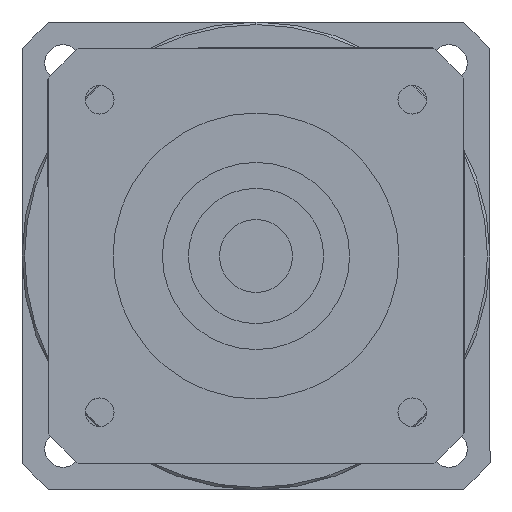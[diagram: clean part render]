
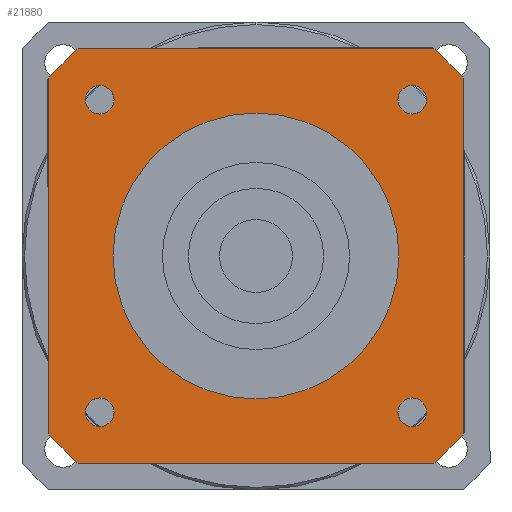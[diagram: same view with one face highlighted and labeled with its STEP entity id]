
A CAD part, left-side view. The second image highlights one B-rep face of the part: STEP entity #21880.
In plain terms, the highlighted planar face has unit normal (-1, 0, 0) as drawn and (0, 0, -1) by its records, which use the part's own axes.
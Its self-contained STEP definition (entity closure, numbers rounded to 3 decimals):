
#16160=CARTESIAN_POINT('',(-40.,34.004,-117.));
#16170=VERTEX_POINT('',#16160);
#16420=CARTESIAN_POINT('',(-40.,-34.004,-117.));
#16430=VERTEX_POINT('',#16420);
#16460=CARTESIAN_POINT('',(-40.,40.,-117.));
#16470=DIRECTION('',(0.,-1.,0.));
#16480=VECTOR('',#16470,1000.);
#16490=LINE('',#16460,#16480);
#16500=EDGE_CURVE('',#16170,#16430,#16490,.T.);
#16660=CARTESIAN_POINT('',(34.004,40.,-117.));
#16670=VERTEX_POINT('',#16660);
#16700=CARTESIAN_POINT('',(0.,0.,
-117.));
#16710=DIRECTION('',(0.,0.,1.));
#16720=DIRECTION('',(0.,-1.,0.));
#16730=AXIS2_PLACEMENT_3D('',#16700,#16710,#16720);
#16740=CIRCLE('',#16730,52.5);
#16750=CARTESIAN_POINT('',(40.,34.004,-117.));
#16760=VERTEX_POINT('',#16750);
#16770=EDGE_CURVE('',#16760,#16670,#16740,.T.);
#19160=CARTESIAN_POINT('',(-34.004,-40.,-117.));
#19170=VERTEX_POINT('',#19160);
#19200=CARTESIAN_POINT('',(0.,0.,
-117.));
#19210=DIRECTION('',(0.,0.,1.));
#19220=DIRECTION('',(0.,-1.,0.));
#19230=AXIS2_PLACEMENT_3D('',#19200,#19210,#19220);
#19240=CIRCLE('',#19230,52.5);
#19250=EDGE_CURVE('',#16430,#19170,#19240,.T.);
#19700=CARTESIAN_POINT('',(34.004,-40.,-117.));
#19710=VERTEX_POINT('',#19700);
#19790=CARTESIAN_POINT('',(40.,-34.004,-117.));
#19800=VERTEX_POINT('',#19790);
#19830=CARTESIAN_POINT('',(0.,0.,
-117.));
#19840=DIRECTION('',(0.,0.,1.));
#19850=DIRECTION('',(0.,-1.,0.));
#19860=AXIS2_PLACEMENT_3D('',#19830,#19840,#19850);
#19870=CIRCLE('',#19860,52.5);
#19880=EDGE_CURVE('',#19710,#19800,#19870,.T.);
#20140=CARTESIAN_POINT('',(-34.004,40.,-117.));
#20150=VERTEX_POINT('',#20140);
#20180=CARTESIAN_POINT('',(40.,40.,-117.));
#20190=DIRECTION('',(-1.,0.,0.));
#20200=VECTOR('',#20190,1000.);
#20210=LINE('',#20180,#20200);
#20220=EDGE_CURVE('',#16670,#20150,#20210,.T.);
#20580=CARTESIAN_POINT('',(0.,0.,
-117.));
#20590=DIRECTION('',(0.,0.,1.));
#20600=DIRECTION('',(0.,-1.,0.));
#20610=AXIS2_PLACEMENT_3D('',#20580,#20590,#20600);
#20620=CIRCLE('',#20610,52.5);
#20630=EDGE_CURVE('',#20150,#16170,#20620,.T.);
#20680=CARTESIAN_POINT('',(-40.,40.,-117.));
#20690=DIRECTION('',(0.,0.,1.));
#20700=DIRECTION('',(-1.,0.,0.));
#20710=AXIS2_PLACEMENT_3D('',#20680,#20690,#20700);
#20720=PLANE('',#20710);
#20730=CARTESIAN_POINT('',(30.052,-30.052,-117.));
#20740=DIRECTION('',(0.,0.,-1.));
#20750=DIRECTION('',(1.,0.,0.));
#20760=AXIS2_PLACEMENT_3D('',#20730,#20740,#20750);
#20770=CIRCLE('',#20760,2.75);
#20780=CARTESIAN_POINT('',(32.802,-30.052,-117.));
#20790=VERTEX_POINT('',#20780);
#20800=CARTESIAN_POINT('',(30.052,-32.802,-117.));
#20810=VERTEX_POINT('',#20800);
#20820=EDGE_CURVE('',#20790,#20810,#20770,.T.);
#20830=ORIENTED_EDGE('',*,*,#20820,.F.);
#20840=CARTESIAN_POINT('',(30.052,-27.302,-117.));
#20850=VERTEX_POINT('',#20840);
#20860=EDGE_CURVE('',#20810,#20850,#20770,.T.);
#20870=ORIENTED_EDGE('',*,*,#20860,.F.);
#20880=EDGE_CURVE('',#20850,#20790,#20770,.T.);
#20890=ORIENTED_EDGE('',*,*,#20880,.F.);
#20900=EDGE_LOOP('',(#20890,#20870,#20830));
#20910=FACE_BOUND('',#20900,.T.);
#20920=CARTESIAN_POINT('',(30.052,30.052,-117.));
#20930=DIRECTION('',(0.,0.,-1.));
#20940=DIRECTION('',(0.,1.,0.));
#20950=AXIS2_PLACEMENT_3D('',#20920,#20930,#20940);
#20960=CIRCLE('',#20950,2.75);
#20970=CARTESIAN_POINT('',(30.052,32.802,-117.));
#20980=VERTEX_POINT('',#20970);
#20990=CARTESIAN_POINT('',(32.802,30.052,-117.));
#21000=VERTEX_POINT('',#20990);
#21010=EDGE_CURVE('',#20980,#21000,#20960,.T.);
#21020=ORIENTED_EDGE('',*,*,#21010,.F.);
#21030=CARTESIAN_POINT('',(27.302,30.052,-117.));
#21040=VERTEX_POINT('',#21030);
#21050=EDGE_CURVE('',#21000,#21040,#20960,.T.);
#21060=ORIENTED_EDGE('',*,*,#21050,.F.);
#21070=EDGE_CURVE('',#21040,#20980,#20960,.T.);
#21080=ORIENTED_EDGE('',*,*,#21070,.F.);
#21090=EDGE_LOOP('',(#21080,#21060,#21020));
#21100=FACE_BOUND('',#21090,.T.);
#21110=CARTESIAN_POINT('',(-30.052,30.052,-117.));
#21120=DIRECTION('',(0.,0.,-1.));
#21130=DIRECTION('',(-1.,0.,0.));
#21140=AXIS2_PLACEMENT_3D('',#21110,#21120,#21130);
#21150=CIRCLE('',#21140,2.75);
#21160=CARTESIAN_POINT('',(-32.802,30.052,-117.));
#21170=VERTEX_POINT('',#21160);
#21180=CARTESIAN_POINT('',(-30.052,32.802,-117.));
#21190=VERTEX_POINT('',#21180);
#21200=EDGE_CURVE('',#21170,#21190,#21150,.T.);
#21210=ORIENTED_EDGE('',*,*,#21200,.F.);
#21220=CARTESIAN_POINT('',(-30.052,27.302,-117.));
#21230=VERTEX_POINT('',#21220);
#21240=EDGE_CURVE('',#21190,#21230,#21150,.T.);
#21250=ORIENTED_EDGE('',*,*,#21240,.F.);
#21260=EDGE_CURVE('',#21230,#21170,#21150,.T.);
#21270=ORIENTED_EDGE('',*,*,#21260,.F.);
#21280=EDGE_LOOP('',(#21270,#21250,#21210));
#21290=FACE_BOUND('',#21280,.T.);
#21300=CARTESIAN_POINT('',(-30.052,-30.052,-117.));
#21310=DIRECTION('',(0.,0.,-1.));
#21320=DIRECTION('',(0.,-1.,0.));
#21330=AXIS2_PLACEMENT_3D('',#21300,#21310,#21320);
#21340=CIRCLE('',#21330,2.75);
#21350=CARTESIAN_POINT('',(-30.052,-32.802,-117.));
#21360=VERTEX_POINT('',#21350);
#21370=CARTESIAN_POINT('',(-32.802,-30.052,-117.));
#21380=VERTEX_POINT('',#21370);
#21390=EDGE_CURVE('',#21360,#21380,#21340,.T.);
#21400=ORIENTED_EDGE('',*,*,#21390,.F.);
#21410=CARTESIAN_POINT('',(-27.302,-30.052,-117.));
#21420=VERTEX_POINT('',#21410);
#21430=EDGE_CURVE('',#21380,#21420,#21340,.T.);
#21440=ORIENTED_EDGE('',*,*,#21430,.F.);
#21450=EDGE_CURVE('',#21420,#21360,#21340,.T.);
#21460=ORIENTED_EDGE('',*,*,#21450,.F.);
#21470=EDGE_LOOP('',(#21460,#21440,#21400));
#21480=FACE_BOUND('',#21470,.T.);
#21490=ORIENTED_EDGE('',*,*,#19250,.F.);
#21500=CARTESIAN_POINT('',(-40.,-40.,-117.));
#21510=DIRECTION('',(1.,0.,0.));
#21520=VECTOR('',#21510,1000.);
#21530=LINE('',#21500,#21520);
#21540=EDGE_CURVE('',#19170,#19710,#21530,.T.);
#21550=ORIENTED_EDGE('',*,*,#21540,.F.);
#21560=ORIENTED_EDGE('',*,*,#19880,.F.);
#21570=CARTESIAN_POINT('',(40.,-40.,-117.));
#21580=DIRECTION('',(0.,1.,0.));
#21590=VECTOR('',#21580,1000.);
#21600=LINE('',#21570,#21590);
#21610=EDGE_CURVE('',#19800,#16760,#21600,.T.);
#21620=ORIENTED_EDGE('',*,*,#21610,.F.);
#21630=ORIENTED_EDGE('',*,*,#16770,.F.);
#21640=ORIENTED_EDGE('',*,*,#20220,.F.);
#21650=ORIENTED_EDGE('',*,*,#20630,.F.);
#21660=ORIENTED_EDGE('',*,*,#16500,.F.);
#21670=EDGE_LOOP('',(#21660,#21650,#21640,#21630,#21620,#21560,#21550,
#21490));
#21680=FACE_OUTER_BOUND('',#21670,.T.);
#21690=CARTESIAN_POINT('',(0.,0.,
-117.));
#21700=DIRECTION('',(0.,0.,1.));
#21710=DIRECTION('',(0.,-1.,0.));
#21720=AXIS2_PLACEMENT_3D('',#21690,#21700,#21710);
#21730=CIRCLE('',#21720,27.5);
#21740=CARTESIAN_POINT('',(27.5,0.,-117.));
#21750=VERTEX_POINT('',#21740);
#21760=CARTESIAN_POINT('',(-27.5,0.,-117.));
#21770=VERTEX_POINT('',#21760);
#21780=EDGE_CURVE('',#21750,#21770,#21730,.T.);
#21790=ORIENTED_EDGE('',*,*,#21780,.T.);
#21800=CARTESIAN_POINT('',(0.,-27.5,-117.));
#21810=VERTEX_POINT('',#21800);
#21820=EDGE_CURVE('',#21810,#21750,#21730,.T.);
#21830=ORIENTED_EDGE('',*,*,#21820,.T.);
#21840=EDGE_CURVE('',#21770,#21810,#21730,.T.);
#21850=ORIENTED_EDGE('',*,*,#21840,.T.);
#21860=EDGE_LOOP('',(#21850,#21830,#21790));
#21870=FACE_BOUND('',#21860,.T.);
#21880=ADVANCED_FACE('',(#20910,#21100,#21290,#21480,#21680,#21870),
#20720,.F.);
